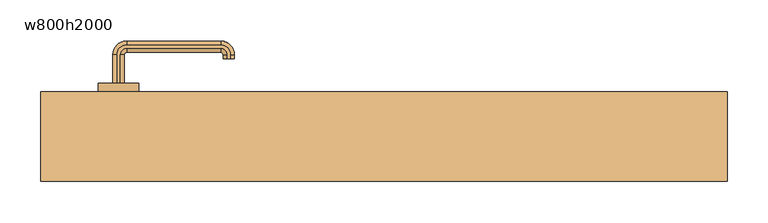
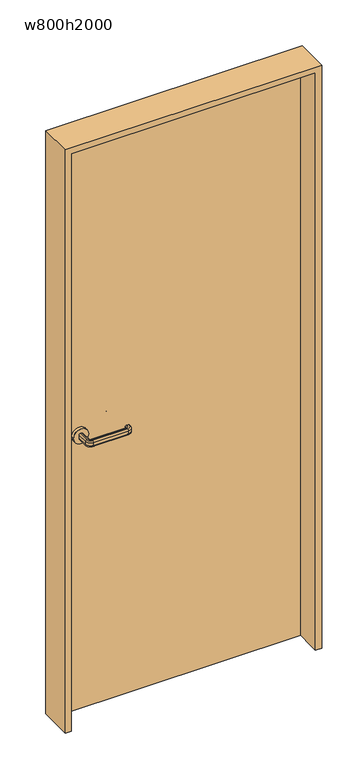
"""IFC4 building model written with IfcOpenShell, lengths in millimetres: door geometry, 片開き : w800h2000."""

from ifc_helpers import new_model, si_unit, point, frame, frame_2d, origin, origin_with_axes, place, context, project, spatial, polyline, circle_curve, ellipse_curve, trimmed, segment, composite_curve, outline, extrude, source, transform, mapped, element, save
from ifc_brep_helpers import plane_surface, cylinder_surface, revolved_surface, advanced_brep


def w800h2000_587cbed2(model_context):
    return source(origin(), model_context, "Body", "SolidModel", [
        advanced_brep(
        [(-327.0, 65.0, 960.0), (-332.0, 65.0, 955.0), (-332.0, 65.0, 945.0477623), (-327.0, 65.0, 940.0477623), (-323.0, 65.0, 940.0477623), (-318.0, 65.0, 945.0477623), (-318.0, 65.0, 955.0), (-323.0, 65.0, 960.0), (-327.0, 100.0, 960.0), (-332.0, 100.0, 955.0), (-332.0, 100.0, 945.0477623), (-327.0, 100.0, 940.0477623), (-315.0, 112.0, 940.0477623), (-200.0, 112.0, 940.0477623), (-188.0, 100.0, 940.0477623), (-188.0, 95.0, 940.0477623), (-192.0, 95.0, 940.0477623), (-192.0, 100.0, 940.0477623), (-200.0, 108.0, 940.0477623), (-315.0, 108.0, 940.0477623), (-323.0, 100.0, 940.0477623), (-318.0, 100.0, 945.0477623), (-318.0, 100.0, 955.0), (-323.0, 100.0, 960.0), (-315.0, 108.0, 960.0), (-200.0, 108.0, 960.0), (-192.0, 100.0, 960.0), (-192.0, 95.0, 960.0), (-188.0, 95.0, 960.0), (-188.0, 100.0, 960.0), (-200.0, 112.0, 960.0), (-315.0, 112.0, 960.0), (-315.0, 117.0, 955.0), (-315.0, 117.0, 945.0477623), (-315.0, 103.0, 945.0477623), (-315.0, 103.0, 955.0), (-200.0, 117.0, 955.0), (-200.0, 117.0, 945.0477623), (-200.0, 103.0, 945.0477623), (-200.0, 103.0, 955.0), (-183.0, 100.0, 955.0), (-183.0, 100.0, 945.0477623), (-197.0, 100.0, 945.0477623), (-197.0, 100.0, 955.0), (-197.0, 95.0, 955.0), (-197.0, 95.0, 945.0477623), (-183.0, 95.0, 945.0477623), (-183.0, 95.0, 955.0)],
        [
            (0, 1, circle_curve(frame((-327.0, 65.0, 955.0), z_axis=(0.0, -1.0, 0.0), x_axis=(-1.0, 0.0, 0.0)), 5.0)),
            (1, 2),
            (2, 3, circle_curve(frame((-327.0, 65.0, 945.0477623), z_axis=(0.0, -1.0, 0.0), x_axis=(-1.0, 0.0, 0.0)), 5.0)),
            (3, 4),
            (4, 5, circle_curve(frame((-323.0, 65.0, 945.0477623), z_axis=(0.0, -1.0, 0.0), x_axis=(-1.0, 0.0, 0.0)), 5.0)),
            (5, 6),
            (6, 7, circle_curve(frame((-323.0, 65.0, 955.0), z_axis=(0.0, -1.0, 0.0), x_axis=(-1.0, 0.0, 0.0)), 5.0)),
            (7, 0),
            (0, 8),
            (8, 9, circle_curve(frame((-327.0, 100.0, 955.0), z_axis=(0.0, -1.0, 0.0), x_axis=(-1.0, 0.0, 0.0)), 5.0)),
            (9, 1),
            (9, 10),
            (10, 2),
            (10, 11, circle_curve(frame((-327.0, 100.0, 945.0477623), z_axis=(0.0, -1.0, 0.0), x_axis=(-1.0, 0.0, 0.0)), 5.0)),
            (11, 3),
            (11, 12, circle_curve(frame((-315.0, 100.0, 940.0477623), z_axis=(0.0, 0.0, -1.0), x_axis=(-1.0, 0.0, 0.0)), 12.0)),
            (12, 13),
            (13, 14, circle_curve(frame((-200.0, 100.0, 940.0477623), z_axis=(0.0, 0.0, -1.0), x_axis=(0.0, 1.0, 0.0)), 12.0)),
            (14, 15),
            (15, 16),
            (16, 17),
            (17, 18, circle_curve(frame((-200.0, 100.0, 940.0477623), z_axis=(0.0, 0.0, 1.0), x_axis=(0.0, 1.0, 0.0)), 8.0)),
            (18, 19),
            (19, 20, circle_curve(frame((-315.0, 100.0, 940.0477623), z_axis=(0.0, 0.0, 1.0), x_axis=(-1.0, 0.0, 0.0)), 8.0)),
            (20, 4),
            (20, 21, circle_curve(frame((-323.0, 100.0, 945.0477623), z_axis=(0.0, -1.0, 0.0), x_axis=(-1.0, 0.0, 0.0)), 5.0)),
            (21, 5),
            (21, 22),
            (22, 6),
            (22, 23, circle_curve(frame((-323.0, 100.0, 955.0), z_axis=(0.0, -1.0, 0.0), x_axis=(-1.0, 0.0, 0.0)), 5.0)),
            (23, 7),
            (23, 24, circle_curve(frame((-315.0, 100.0, 960.0), z_axis=(0.0, 0.0, -1.0), x_axis=(-1.0, 0.0, 0.0)), 8.0)),
            (24, 25),
            (25, 26, circle_curve(frame((-200.0, 100.0, 960.0), z_axis=(0.0, 0.0, -1.0), x_axis=(0.0, 1.0, 0.0)), 8.0)),
            (26, 27),
            (27, 28),
            (28, 29),
            (29, 30, circle_curve(frame((-200.0, 100.0, 960.0), z_axis=(0.0, 0.0, 1.0), x_axis=(0.0, 1.0, 0.0)), 12.0)),
            (30, 31),
            (31, 8, circle_curve(frame((-315.0, 100.0, 960.0), z_axis=(0.0, 0.0, 1.0), x_axis=(-1.0, 0.0, 0.0)), 12.0)),
            (32, 9, circle_curve(frame((-315.0, 100.0, 955.0), z_axis=(0.0, 0.0, 1.0), x_axis=(-1.0, 0.0, 0.0)), 17.0)),
            (31, 32, circle_curve(frame((-315.0, 112.0, 955.0), z_axis=(-1.0, 0.0, 0.0), x_axis=(0.0, 1.0, 0.0)), 5.0)),
            (33, 10, circle_curve(frame((-315.0, 100.0, 945.0477623), z_axis=(0.0, 0.0, 1.0), x_axis=(-1.0, 0.0, 0.0)), 17.0)),
            (32, 33),
            (33, 12, circle_curve(frame((-315.0, 112.0, 945.0477623), z_axis=(-1.0, 0.0, 0.0), x_axis=(0.0, 1.0, 0.0)), 5.0)),
            (34, 21, circle_curve(frame((-315.0, 100.0, 945.0477623), z_axis=(0.0, 0.0, 1.0), x_axis=(-1.0, 0.0, 0.0)), 3.0)),
            (19, 34, circle_curve(frame((-315.0, 108.0, 945.0477623), z_axis=(-1.0, 0.0, 0.0), x_axis=(0.0, 1.0, 0.0)), 5.0)),
            (35, 22, circle_curve(frame((-315.0, 100.0, 955.0), z_axis=(0.0, 0.0, 1.0), x_axis=(-1.0, 0.0, 0.0)), 3.0)),
            (34, 35),
            (35, 24, circle_curve(frame((-315.0, 108.0, 955.0), z_axis=(-1.0, 0.0, 0.0), x_axis=(0.0, 1.0, 0.0)), 5.0)),
            (30, 36, circle_curve(frame((-200.0, 112.0, 955.0), z_axis=(-1.0, 0.0, 0.0), x_axis=(0.0, 1.0, 0.0)), 5.0)),
            (36, 32),
            (36, 37),
            (37, 33),
            (37, 13, circle_curve(frame((-200.0, 112.0, 945.0477623), z_axis=(-1.0, 0.0, 0.0), x_axis=(0.0, 1.0, 0.0)), 5.0)),
            (18, 38, circle_curve(frame((-200.0, 108.0, 945.0477623), z_axis=(-1.0, 0.0, 0.0), x_axis=(0.0, 1.0, 0.0)), 5.0)),
            (38, 34),
            (38, 39),
            (39, 35),
            (39, 25, circle_curve(frame((-200.0, 108.0, 955.0), z_axis=(-1.0, 0.0, 0.0), x_axis=(0.0, 1.0, 0.0)), 5.0)),
            (40, 36, circle_curve(frame((-200.0, 100.0, 955.0), z_axis=(0.0, 0.0, 1.0), x_axis=(0.0, 1.0, 0.0)), 17.0)),
            (29, 40, circle_curve(frame((-188.0, 100.0, 955.0), z_axis=(0.0, 1.0, 0.0), x_axis=(1.0, 0.0, 0.0)), 5.0)),
            (41, 37, circle_curve(frame((-200.0, 100.0, 945.0477623), z_axis=(0.0, 0.0, 1.0), x_axis=(0.0, 1.0, 0.0)), 17.0)),
            (40, 41),
            (41, 14, circle_curve(frame((-188.0, 100.0, 945.0477623), z_axis=(0.0, 1.0, 0.0), x_axis=(1.0, 0.0, 0.0)), 5.0)),
            (42, 38, circle_curve(frame((-200.0, 100.0, 945.0477623), z_axis=(0.0, 0.0, 1.0), x_axis=(0.0, 1.0, 0.0)), 3.0)),
            (17, 42, circle_curve(frame((-192.0, 100.0, 945.0477623), z_axis=(0.0, 1.0, 0.0), x_axis=(1.0, 0.0, 0.0)), 5.0)),
            (43, 39, circle_curve(frame((-200.0, 100.0, 955.0), z_axis=(0.0, 0.0, 1.0), x_axis=(0.0, 1.0, 0.0)), 3.0)),
            (42, 43),
            (43, 26, circle_curve(frame((-192.0, 100.0, 955.0), z_axis=(0.0, 1.0, 0.0), x_axis=(1.0, 0.0, 0.0)), 5.0)),
            (27, 44, circle_curve(frame((-192.0, 95.0, 955.0), z_axis=(0.0, -1.0, 0.0), x_axis=(1.0, 0.0, 0.0)), 5.0)),
            (44, 45),
            (45, 16, circle_curve(frame((-192.0, 95.0, 945.0477623), z_axis=(0.0, -1.0, 0.0), x_axis=(1.0, 0.0, 0.0)), 5.0)),
            (15, 46, circle_curve(frame((-188.0, 95.0, 945.0477623), z_axis=(0.0, -1.0, 0.0), x_axis=(1.0, 0.0, 0.0)), 5.0)),
            (46, 47),
            (47, 28, circle_curve(frame((-188.0, 95.0, 955.0), z_axis=(0.0, -1.0, 0.0), x_axis=(1.0, 0.0, 0.0)), 5.0)),
            (47, 40),
            (46, 41),
            (45, 42),
            (44, 43),
        ],
        [
            plane_surface(frame((-335.198039, 65.0, 950.0), z_axis=(0.0, -1.0, 0.0), x_axis=(0.0, 0.0, 1.0))),
            cylinder_surface(frame((-327.0, 65.0, 955.0), z_axis=(0.0, -1.0, 0.0), x_axis=(-1.0, 0.0, 0.0)), 5.0),
            plane_surface(frame((-332.0, 65.0, 955.0), z_axis=(-1.0, 0.0, 0.0), x_axis=(0.0, 1.0, 0.0))),
            cylinder_surface(frame((-327.0, 65.0, 945.0477623), z_axis=(0.0, -1.0, 0.0), x_axis=(-1.0, 0.0, 0.0)), 5.0),
            plane_surface(frame((-327.0, 65.0, 940.0477623), z_axis=(0.0, 0.0, -1.0), x_axis=(0.0, 1.0, 0.0))),
            cylinder_surface(frame((-323.0, 65.0, 945.0477623), z_axis=(0.0, -1.0, 0.0), x_axis=(-1.0, 0.0, 0.0)), 5.0),
            plane_surface(frame((-318.0, 65.0, 945.0477623), z_axis=(1.0, 0.0, 0.0), x_axis=(0.0, 1.0, 0.0))),
            cylinder_surface(frame((-323.0, 65.0, 955.0), z_axis=(0.0, -1.0, 0.0), x_axis=(-1.0, 0.0, 0.0)), 5.0),
            plane_surface(frame((-323.0, 65.0, 960.0), z_axis=(0.0, 0.0, 1.0), x_axis=(0.0, 1.0, 0.0))),
            revolved_surface(trimmed(ellipse_curve(frame((-327.0, 100.0, 955.0), z_axis=(0.0, -1.0, 0.0), x_axis=(-1.0, 0.0, 0.0)), 5.0, 5.0), [point((-327.0, 100.0, 960.0))], [point((-332.0, 100.0, 955.0))], True, "CARTESIAN"), (-315.0, 100.0, 950.0), (0.0, 0.0, -1.0)),
            cylinder_surface(frame((-315.0, 100.0, 950.0), z_axis=(0.0, 0.0, -1.0), x_axis=(-1.0, 0.0, 0.0)), 17.0),
            revolved_surface(trimmed(ellipse_curve(frame((-327.0, 100.0, 945.0477623), z_axis=(0.0, -1.0, 0.0), x_axis=(-1.0, 0.0, 0.0)), 5.0, 5.0), [point((-332.0, 100.0, 945.0477623))], [point((-327.0, 100.0, 940.0477623))], True, "CARTESIAN"), (-315.0, 100.0, 950.0), (0.0, 0.0, -1.0)),
            revolved_surface(trimmed(ellipse_curve(frame((-323.0, 100.0, 945.0477623), z_axis=(0.0, -1.0, 0.0), x_axis=(-1.0, 0.0, 0.0)), 5.0, 5.0), [point((-323.0, 100.0, 940.0477623))], [point((-318.0, 100.0, 945.0477623))], True, "CARTESIAN"), (-315.0, 100.0, 950.0), (0.0, 0.0, -1.0)),
            revolved_surface(polyline([(-318.0, 100.0, 945.0477623), (-318.0, 100.0, 955.0)]), (-315.0, 100.0, 950.0), (0.0, 0.0, -1.0)),
            revolved_surface(trimmed(ellipse_curve(frame((-323.0, 100.0, 955.0), z_axis=(0.0, -1.0, 0.0), x_axis=(-1.0, 0.0, 0.0)), 5.0, 5.0), [point((-318.0, 100.0, 955.0))], [point((-323.0, 100.0, 960.0))], True, "CARTESIAN"), (-315.0, 100.0, 950.0), (0.0, 0.0, -1.0)),
            cylinder_surface(frame((-315.0, 112.0, 955.0), z_axis=(-1.0, 0.0, 0.0), x_axis=(0.0, 1.0, 0.0)), 5.0),
            plane_surface(frame((-315.0, 117.0, 955.0), z_axis=(0.0, 1.0, 0.0), x_axis=(1.0, 0.0, 0.0))),
            cylinder_surface(frame((-315.0, 112.0, 945.0477623), z_axis=(-1.0, 0.0, 0.0), x_axis=(0.0, 1.0, 0.0)), 5.0),
            cylinder_surface(frame((-315.0, 108.0, 945.0477623), z_axis=(-1.0, 0.0, 0.0), x_axis=(0.0, 1.0, 0.0)), 5.0),
            plane_surface(frame((-315.0, 103.0, 945.0477623), z_axis=(0.0, -1.0, 0.0), x_axis=(1.0, 0.0, 0.0))),
            cylinder_surface(frame((-315.0, 108.0, 955.0), z_axis=(-1.0, 0.0, 0.0), x_axis=(0.0, 1.0, 0.0)), 5.0),
            revolved_surface(trimmed(ellipse_curve(frame((-200.0, 112.0, 955.0), z_axis=(-1.0, 0.0, 0.0), x_axis=(0.0, 1.0, 0.0)), 5.0, 5.0), [point((-200.0, 112.0, 960.0))], [point((-200.0, 117.0, 955.0))], True, "CARTESIAN"), (-200.0, 100.0, 950.0), (0.0, 0.0, -1.0)),
            cylinder_surface(frame((-200.0, 100.0, 950.0), z_axis=(0.0, 0.0, -1.0), x_axis=(0.0, 1.0, 0.0)), 17.0),
            revolved_surface(trimmed(ellipse_curve(frame((-200.0, 112.0, 945.0477623), z_axis=(-1.0, 0.0, 0.0), x_axis=(0.0, 1.0, 0.0)), 5.0, 5.0), [point((-200.0, 117.0, 945.0477623))], [point((-200.0, 112.0, 940.0477623))], True, "CARTESIAN"), (-200.0, 100.0, 950.0), (0.0, 0.0, -1.0)),
            revolved_surface(trimmed(ellipse_curve(frame((-200.0, 108.0, 945.0477623), z_axis=(-1.0, 0.0, 0.0), x_axis=(0.0, 1.0, 0.0)), 5.0, 5.0), [point((-200.0, 108.0, 940.0477623))], [point((-200.0, 103.0, 945.0477623))], True, "CARTESIAN"), (-200.0, 100.0, 950.0), (0.0, 0.0, -1.0)),
            revolved_surface(polyline([(-200.0, 103.0, 945.0477623), (-200.0, 103.0, 955.0)]), (-200.0, 100.0, 950.0), (0.0, 0.0, -1.0)),
            revolved_surface(trimmed(ellipse_curve(frame((-200.0, 108.0, 955.0), z_axis=(-1.0, 0.0, 0.0), x_axis=(0.0, 1.0, 0.0)), 5.0, 5.0), [point((-200.0, 103.0, 955.0))], [point((-200.0, 108.0, 960.0))], True, "CARTESIAN"), (-200.0, 100.0, 950.0), (0.0, 0.0, -1.0)),
            plane_surface(frame((-200.198039, 95.0, 950.0), z_axis=(0.0, -1.0, 0.0), x_axis=(0.0, 0.0, -1.0))),
            cylinder_surface(frame((-188.0, 100.0, 955.0), z_axis=(0.0, 1.0, 0.0), x_axis=(1.0, 0.0, 0.0)), 5.0),
            plane_surface(frame((-183.0, 100.0, 955.0), z_axis=(1.0, 0.0, 0.0), x_axis=(0.0, -1.0, 0.0))),
            cylinder_surface(frame((-188.0, 100.0, 945.0477623), z_axis=(0.0, 1.0, 0.0), x_axis=(1.0, 0.0, 0.0)), 5.0),
            cylinder_surface(frame((-192.0, 100.0, 945.0477623), z_axis=(0.0, 1.0, 0.0), x_axis=(1.0, 0.0, 0.0)), 5.0),
            plane_surface(frame((-197.0, 100.0, 945.0477623), z_axis=(-1.0, 0.0, 0.0), x_axis=(0.0, -1.0, 0.0))),
            cylinder_surface(frame((-192.0, 100.0, 955.0), z_axis=(0.0, 1.0, 0.0), x_axis=(1.0, 0.0, 0.0)), 5.0),
        ],
        [
            (0, [[1, 2, 3, 4, 5, 6, 7, 8]]),
            (1, [[-1, 9, 10, 11]]),
            (2, [[-2, -11, 12, 13]]),
            (3, [[-3, -13, 14, 15]]),
            (4, [[-4, -15, 16, 17, 18, 19, 20, 21, 22, 23, 24, 25]]),
            (5, [[-5, -25, 26, 27]]),
            (6, [[-6, -27, 28, 29]]),
            (7, [[-7, -29, 30, 31]]),
            (8, [[-8, -31, 32, 33, 34, 35, 36, 37, 38, 39, 40, -9]]),
            (9, [[41, -10, -40, 42]]),
            (10, [[43, -12, -41, 44]]),
            (11, [[-16, -14, -43, 45]]),
            (12, [[46, -26, -24, 47]]),
            (13, [[48, -28, -46, 49]]),
            (14, [[-32, -30, -48, 50]]),
            (15, [[-42, -39, 51, 52]]),
            (16, [[-44, -52, 53, 54]]),
            (17, [[-45, -54, 55, -17]]),
            (18, [[-47, -23, 56, 57]]),
            (19, [[-49, -57, 58, 59]]),
            (20, [[-50, -59, 60, -33]]),
            (21, [[61, -51, -38, 62]]),
            (22, [[63, -53, -61, 64]]),
            (23, [[-18, -55, -63, 65]]),
            (24, [[66, -56, -22, 67]]),
            (25, [[68, -58, -66, 69]]),
            (26, [[-34, -60, -68, 70]]),
            (27, [[-36, 71, 72, 73, -20, 74, 75, 76]]),
            (28, [[-62, -37, -76, 77]]),
            (29, [[-64, -77, -75, 78]]),
            (30, [[-65, -78, -74, -19]]),
            (31, [[-67, -21, -73, 79]]),
            (32, [[-69, -79, -72, 80]]),
            (33, [[-70, -80, -71, -35]]),
        ],
    ),
        advanced_brep(
        [(-323.0, 20.0, 940.0), (-327.0, 20.0, 940.0), (-332.0, 20.0, 945.0), (-332.0, 20.0, 955.0), (-327.0, 20.0, 960.0), (-323.0, 20.0, 960.0), (-318.0, 20.0, 955.0), (-318.0, 20.0, 945.0), (-323.0, -15.0, 940.0), (-315.0, -23.0, 940.0), (-200.0, -23.0, 940.0), (-192.0, -15.0, 940.0), (-192.0, -10.0, 940.0), (-188.0, -10.0, 940.0), (-188.0, -15.0, 940.0), (-200.0, -27.0, 940.0), (-315.0, -27.0, 940.0), (-327.0, -15.0, 940.0), (-332.0, -15.0, 945.0), (-332.0, -15.0, 955.0), (-327.0, -15.0, 960.0), (-315.0, -27.0, 960.0), (-200.0, -27.0, 960.0), (-188.0, -15.0, 960.0), (-188.0, -10.0, 960.0), (-192.0, -10.0, 960.0), (-192.0, -15.0, 960.0), (-200.0, -23.0, 960.0), (-315.0, -23.0, 960.0), (-323.0, -15.0, 960.0), (-318.0, -15.0, 955.0), (-318.0, -15.0, 945.0), (-315.0, -32.0, 945.0), (-315.0, -32.0, 955.0), (-315.0, -18.0, 955.0), (-315.0, -18.0, 945.0), (-200.0, -32.0, 945.0), (-200.0, -32.0, 955.0), (-200.0, -18.0, 955.0), (-200.0, -18.0, 945.0), (-183.0, -15.0, 945.0), (-183.0, -15.0, 955.0), (-197.0, -15.0, 955.0), (-197.0, -15.0, 945.0), (-197.0, -10.0, 945.0), (-197.0, -10.0, 955.0), (-183.0, -10.0, 955.0), (-183.0, -10.0, 945.0)],
        [
            (0, 1),
            (1, 2, circle_curve(frame((-327.0, 20.0, 945.0), z_axis=(0.0, 1.0, 0.0), x_axis=(1.0, 0.0, 0.0)), 5.0)),
            (2, 3),
            (3, 4, circle_curve(frame((-327.0, 20.0, 955.0), z_axis=(0.0, 1.0, 0.0), x_axis=(1.0, 0.0, 0.0)), 5.0)),
            (4, 5),
            (5, 6, circle_curve(frame((-323.0, 20.0, 955.0), z_axis=(0.0, 1.0, 0.0), x_axis=(1.0, 0.0, 0.0)), 5.0)),
            (6, 7),
            (7, 0, circle_curve(frame((-323.0, 20.0, 945.0), z_axis=(0.0, 1.0, 0.0), x_axis=(1.0, 0.0, 0.0)), 5.0)),
            (0, 8),
            (8, 9, circle_curve(frame((-315.0, -15.0, 940.0), z_axis=(0.0, 0.0, 1.0), x_axis=(-1.0, 0.0, 0.0)), 8.0)),
            (9, 10),
            (10, 11, circle_curve(frame((-200.0, -15.0, 940.0), z_axis=(0.0, 0.0, 1.0), x_axis=(0.0, -1.0, 0.0)), 8.0)),
            (11, 12),
            (12, 13),
            (13, 14),
            (14, 15, circle_curve(frame((-200.0, -15.0, 940.0), z_axis=(0.0, 0.0, -1.0), x_axis=(0.0, -1.0, 0.0)), 12.0)),
            (15, 16),
            (16, 17, circle_curve(frame((-315.0, -15.0, 940.0), z_axis=(0.0, 0.0, -1.0), x_axis=(-1.0, 0.0, 0.0)), 12.0)),
            (17, 1),
            (17, 18, circle_curve(frame((-327.0, -15.0, 945.0), z_axis=(0.0, 1.0, 0.0), x_axis=(1.0, 0.0, 0.0)), 5.0)),
            (18, 2),
            (18, 19),
            (19, 3),
            (19, 20, circle_curve(frame((-327.0, -15.0, 955.0), z_axis=(0.0, 1.0, 0.0), x_axis=(1.0, 0.0, 0.0)), 5.0)),
            (20, 4),
            (20, 21, circle_curve(frame((-315.0, -15.0, 960.0), z_axis=(0.0, 0.0, 1.0), x_axis=(-1.0, 0.0, 0.0)), 12.0)),
            (21, 22),
            (22, 23, circle_curve(frame((-200.0, -15.0, 960.0), z_axis=(0.0, 0.0, 1.0), x_axis=(0.0, -1.0, 0.0)), 12.0)),
            (23, 24),
            (24, 25),
            (25, 26),
            (26, 27, circle_curve(frame((-200.0, -15.0, 960.0), z_axis=(0.0, 0.0, -1.0), x_axis=(0.0, -1.0, 0.0)), 8.0)),
            (27, 28),
            (28, 29, circle_curve(frame((-315.0, -15.0, 960.0), z_axis=(0.0, 0.0, -1.0), x_axis=(-1.0, 0.0, 0.0)), 8.0)),
            (29, 5),
            (29, 30, circle_curve(frame((-323.0, -15.0, 955.0), z_axis=(0.0, 1.0, 0.0), x_axis=(1.0, 0.0, 0.0)), 5.0)),
            (30, 6),
            (30, 31),
            (31, 7),
            (31, 8, circle_curve(frame((-323.0, -15.0, 945.0), z_axis=(0.0, 1.0, 0.0), x_axis=(1.0, 0.0, 0.0)), 5.0)),
            (32, 18, circle_curve(frame((-315.0, -15.0, 945.0), z_axis=(0.0, 0.0, -1.0), x_axis=(-1.0, 0.0, 0.0)), 17.0)),
            (16, 32, circle_curve(frame((-315.0, -27.0, 945.0), z_axis=(-1.0, 0.0, 0.0), x_axis=(0.0, 1.0, 0.0)), 5.0)),
            (33, 19, circle_curve(frame((-315.0, -15.0, 955.0), z_axis=(0.0, 0.0, -1.0), x_axis=(-1.0, 0.0, 0.0)), 17.0)),
            (32, 33),
            (33, 21, circle_curve(frame((-315.0, -27.0, 955.0), z_axis=(-1.0, 0.0, 0.0), x_axis=(0.0, 1.0, 0.0)), 5.0)),
            (34, 30, circle_curve(frame((-315.0, -15.0, 955.0), z_axis=(0.0, 0.0, -1.0), x_axis=(-1.0, 0.0, 0.0)), 3.0)),
            (28, 34, circle_curve(frame((-315.0, -23.0, 955.0), z_axis=(-1.0, 0.0, 0.0), x_axis=(0.0, 1.0, 0.0)), 5.0)),
            (35, 31, circle_curve(frame((-315.0, -15.0, 945.0), z_axis=(0.0, 0.0, -1.0), x_axis=(-1.0, 0.0, 0.0)), 3.0)),
            (34, 35),
            (35, 9, circle_curve(frame((-315.0, -23.0, 945.0), z_axis=(-1.0, 0.0, 0.0), x_axis=(0.0, 1.0, 0.0)), 5.0)),
            (15, 36, circle_curve(frame((-200.0, -27.0, 945.0), z_axis=(-1.0, 0.0, 0.0), x_axis=(0.0, 1.0, 0.0)), 5.0)),
            (36, 32),
            (36, 37),
            (37, 33),
            (37, 22, circle_curve(frame((-200.0, -27.0, 955.0), z_axis=(-1.0, 0.0, 0.0), x_axis=(0.0, 1.0, 0.0)), 5.0)),
            (27, 38, circle_curve(frame((-200.0, -23.0, 955.0), z_axis=(-1.0, 0.0, 0.0), x_axis=(0.0, 1.0, 0.0)), 5.0)),
            (38, 34),
            (38, 39),
            (39, 35),
            (39, 10, circle_curve(frame((-200.0, -23.0, 945.0), z_axis=(-1.0, 0.0, 0.0), x_axis=(0.0, 1.0, 0.0)), 5.0)),
            (40, 36, circle_curve(frame((-200.0, -15.0, 945.0), z_axis=(0.0, 0.0, -1.0), x_axis=(0.0, -1.0, 0.0)), 17.0)),
            (14, 40, circle_curve(frame((-188.0, -15.0, 945.0), z_axis=(0.0, -1.0, 0.0), x_axis=(-1.0, 0.0, 0.0)), 5.0)),
            (41, 37, circle_curve(frame((-200.0, -15.0, 955.0), z_axis=(0.0, 0.0, -1.0), x_axis=(0.0, -1.0, 0.0)), 17.0)),
            (40, 41),
            (41, 23, circle_curve(frame((-188.0, -15.0, 955.0), z_axis=(0.0, -1.0, 0.0), x_axis=(-1.0, 0.0, 0.0)), 5.0)),
            (42, 38, circle_curve(frame((-200.0, -15.0, 955.0), z_axis=(0.0, 0.0, -1.0), x_axis=(0.0, -1.0, 0.0)), 3.0)),
            (26, 42, circle_curve(frame((-192.0, -15.0, 955.0), z_axis=(0.0, -1.0, 0.0), x_axis=(-1.0, 0.0, 0.0)), 5.0)),
            (43, 39, circle_curve(frame((-200.0, -15.0, 945.0), z_axis=(0.0, 0.0, -1.0), x_axis=(0.0, -1.0, 0.0)), 3.0)),
            (42, 43),
            (43, 11, circle_curve(frame((-192.0, -15.0, 945.0), z_axis=(0.0, -1.0, 0.0), x_axis=(-1.0, 0.0, 0.0)), 5.0)),
            (12, 44, circle_curve(frame((-192.0, -10.0, 945.0), z_axis=(0.0, 1.0, 0.0), x_axis=(-1.0, 0.0, 0.0)), 5.0)),
            (44, 45),
            (45, 25, circle_curve(frame((-192.0, -10.0, 955.0), z_axis=(0.0, 1.0, 0.0), x_axis=(-1.0, 0.0, 0.0)), 5.0)),
            (24, 46, circle_curve(frame((-188.0, -10.0, 955.0), z_axis=(0.0, 1.0, 0.0), x_axis=(-1.0, 0.0, 0.0)), 5.0)),
            (46, 47),
            (47, 13, circle_curve(frame((-188.0, -10.0, 945.0), z_axis=(0.0, 1.0, 0.0), x_axis=(-1.0, 0.0, 0.0)), 5.0)),
            (47, 40),
            (46, 41),
            (45, 42),
            (44, 43),
        ],
        [
            plane_surface(frame((-335.198039, 20.0, 950.0), z_axis=(0.0, 1.0, 0.0), x_axis=(0.0, 0.0, -1.0))),
            plane_surface(frame((-323.0, 20.0, 940.0), z_axis=(0.0, 0.0, -1.0), x_axis=(0.0, -1.0, 0.0))),
            cylinder_surface(frame((-327.0, 20.0, 945.0), z_axis=(0.0, 1.0, 0.0), x_axis=(1.0, 0.0, 0.0)), 5.0),
            plane_surface(frame((-332.0, 20.0, 945.0), z_axis=(-1.0, 0.0, 0.0), x_axis=(0.0, -1.0, 0.0))),
            cylinder_surface(frame((-327.0, 20.0, 955.0), z_axis=(0.0, 1.0, 0.0), x_axis=(1.0, 0.0, 0.0)), 5.0),
            plane_surface(frame((-327.0, 20.0, 960.0), z_axis=(0.0, 0.0, 1.0), x_axis=(0.0, -1.0, 0.0))),
            cylinder_surface(frame((-323.0, 20.0, 955.0), z_axis=(0.0, 1.0, 0.0), x_axis=(1.0, 0.0, 0.0)), 5.0),
            plane_surface(frame((-318.0, 20.0, 955.0), z_axis=(1.0, 0.0, 0.0), x_axis=(0.0, -1.0, 0.0))),
            cylinder_surface(frame((-323.0, 20.0, 945.0), z_axis=(0.0, 1.0, 0.0), x_axis=(1.0, 0.0, 0.0)), 5.0),
            revolved_surface(trimmed(ellipse_curve(frame((-327.0, -15.0, 945.0), z_axis=(0.0, 1.0, 0.0), x_axis=(1.0, 0.0, 0.0)), 5.0, 5.0), [point((-327.0, -15.0, 940.0))], [point((-332.0, -15.0, 945.0))], True, "CARTESIAN"), (-315.0, -15.0, 950.0), (0.0, 0.0, 1.0)),
            cylinder_surface(frame((-315.0, -15.0, 950.0), z_axis=(0.0, 0.0, 1.0), x_axis=(-1.0, 0.0, 0.0)), 17.0),
            revolved_surface(trimmed(ellipse_curve(frame((-327.0, -15.0, 955.0), z_axis=(0.0, 1.0, 0.0), x_axis=(1.0, 0.0, 0.0)), 5.0, 5.0), [point((-332.0, -15.0, 955.0))], [point((-327.0, -15.0, 960.0))], True, "CARTESIAN"), (-315.0, -15.0, 950.0), (0.0, 0.0, 1.0)),
            revolved_surface(trimmed(ellipse_curve(frame((-323.0, -15.0, 955.0), z_axis=(0.0, 1.0, 0.0), x_axis=(1.0, 0.0, 0.0)), 5.0, 5.0), [point((-323.0, -15.0, 960.0))], [point((-318.0, -15.0, 955.0))], True, "CARTESIAN"), (-315.0, -15.0, 950.0), (0.0, 0.0, 1.0)),
            revolved_surface(polyline([(-318.0, -15.0, 955.0), (-318.0, -15.0, 945.0)]), (-315.0, -15.0, 950.0), (0.0, 0.0, 1.0)),
            revolved_surface(trimmed(ellipse_curve(frame((-323.0, -15.0, 945.0), z_axis=(0.0, 1.0, 0.0), x_axis=(1.0, 0.0, 0.0)), 5.0, 5.0), [point((-318.0, -15.0, 945.0))], [point((-323.0, -15.0, 940.0))], True, "CARTESIAN"), (-315.0, -15.0, 950.0), (0.0, 0.0, 1.0)),
            cylinder_surface(frame((-315.0, -27.0, 945.0), z_axis=(-1.0, 0.0, 0.0), x_axis=(0.0, 1.0, 0.0)), 5.0),
            plane_surface(frame((-315.0, -32.0, 945.0), z_axis=(0.0, -1.0, 0.0), x_axis=(1.0, 0.0, 0.0))),
            cylinder_surface(frame((-315.0, -27.0, 955.0), z_axis=(-1.0, 0.0, 0.0), x_axis=(0.0, 1.0, 0.0)), 5.0),
            cylinder_surface(frame((-315.0, -23.0, 955.0), z_axis=(-1.0, 0.0, 0.0), x_axis=(0.0, 1.0, 0.0)), 5.0),
            plane_surface(frame((-315.0, -18.0, 955.0), z_axis=(0.0, 1.0, 0.0), x_axis=(1.0, 0.0, 0.0))),
            cylinder_surface(frame((-315.0, -23.0, 945.0), z_axis=(-1.0, 0.0, 0.0), x_axis=(0.0, 1.0, 0.0)), 5.0),
            revolved_surface(trimmed(ellipse_curve(frame((-200.0, -27.0, 945.0), z_axis=(-1.0, 0.0, 0.0), x_axis=(0.0, 1.0, 0.0)), 5.0, 5.0), [point((-200.0, -27.0, 940.0))], [point((-200.0, -32.0, 945.0))], True, "CARTESIAN"), (-200.0, -15.0, 950.0), (0.0, 0.0, 1.0)),
            cylinder_surface(frame((-200.0, -15.0, 950.0), z_axis=(0.0, 0.0, 1.0), x_axis=(0.0, -1.0, 0.0)), 17.0),
            revolved_surface(trimmed(ellipse_curve(frame((-200.0, -27.0, 955.0), z_axis=(-1.0, 0.0, 0.0), x_axis=(0.0, 1.0, 0.0)), 5.0, 5.0), [point((-200.0, -32.0, 955.0))], [point((-200.0, -27.0, 960.0))], True, "CARTESIAN"), (-200.0, -15.0, 950.0), (0.0, 0.0, 1.0)),
            revolved_surface(trimmed(ellipse_curve(frame((-200.0, -23.0, 955.0), z_axis=(-1.0, 0.0, 0.0), x_axis=(0.0, 1.0, 0.0)), 5.0, 5.0), [point((-200.0, -23.0, 960.0))], [point((-200.0, -18.0, 955.0))], True, "CARTESIAN"), (-200.0, -15.0, 950.0), (0.0, 0.0, 1.0)),
            revolved_surface(polyline([(-200.0, -18.0, 955.0), (-200.0, -18.0, 945.0)]), (-200.0, -15.0, 950.0), (0.0, 0.0, 1.0)),
            revolved_surface(trimmed(ellipse_curve(frame((-200.0, -23.0, 945.0), z_axis=(-1.0, 0.0, 0.0), x_axis=(0.0, 1.0, 0.0)), 5.0, 5.0), [point((-200.0, -18.0, 945.0))], [point((-200.0, -23.0, 940.0))], True, "CARTESIAN"), (-200.0, -15.0, 950.0), (0.0, 0.0, 1.0)),
            plane_surface(frame((-200.198039, -10.0, 950.0), z_axis=(0.0, 1.0, 0.0), x_axis=(0.0, 0.0, 1.0))),
            cylinder_surface(frame((-188.0, -15.0, 945.0), z_axis=(0.0, -1.0, 0.0), x_axis=(-1.0, 0.0, 0.0)), 5.0),
            plane_surface(frame((-183.0, -15.0, 945.0), z_axis=(1.0, 0.0, 0.0), x_axis=(0.0, 1.0, 0.0))),
            cylinder_surface(frame((-188.0, -15.0, 955.0), z_axis=(0.0, -1.0, 0.0), x_axis=(-1.0, 0.0, 0.0)), 5.0),
            cylinder_surface(frame((-192.0, -15.0, 955.0), z_axis=(0.0, -1.0, 0.0), x_axis=(-1.0, 0.0, 0.0)), 5.0),
            plane_surface(frame((-197.0, -15.0, 955.0), z_axis=(-1.0, 0.0, 0.0), x_axis=(0.0, 1.0, 0.0))),
            cylinder_surface(frame((-192.0, -15.0, 945.0), z_axis=(0.0, -1.0, 0.0), x_axis=(-1.0, 0.0, 0.0)), 5.0),
        ],
        [
            (0, [[1, 2, 3, 4, 5, 6, 7, 8]]),
            (1, [[-1, 9, 10, 11, 12, 13, 14, 15, 16, 17, 18, 19]]),
            (2, [[-2, -19, 20, 21]]),
            (3, [[-3, -21, 22, 23]]),
            (4, [[-4, -23, 24, 25]]),
            (5, [[-5, -25, 26, 27, 28, 29, 30, 31, 32, 33, 34, 35]]),
            (6, [[-6, -35, 36, 37]]),
            (7, [[-7, -37, 38, 39]]),
            (8, [[-8, -39, 40, -9]]),
            (9, [[41, -20, -18, 42]]),
            (10, [[43, -22, -41, 44]]),
            (11, [[-26, -24, -43, 45]]),
            (12, [[46, -36, -34, 47]]),
            (13, [[48, -38, -46, 49]]),
            (14, [[-10, -40, -48, 50]]),
            (15, [[-42, -17, 51, 52]]),
            (16, [[-44, -52, 53, 54]]),
            (17, [[-45, -54, 55, -27]]),
            (18, [[-47, -33, 56, 57]]),
            (19, [[-49, -57, 58, 59]]),
            (20, [[-50, -59, 60, -11]]),
            (21, [[61, -51, -16, 62]]),
            (22, [[63, -53, -61, 64]]),
            (23, [[-28, -55, -63, 65]]),
            (24, [[66, -56, -32, 67]]),
            (25, [[68, -58, -66, 69]]),
            (26, [[-12, -60, -68, 70]]),
            (27, [[71, 72, 73, -30, 74, 75, 76, -14]]),
            (28, [[-62, -15, -76, 77]]),
            (29, [[-64, -77, -75, 78]]),
            (30, [[-65, -78, -74, -29]]),
            (31, [[-67, -31, -73, 79]]),
            (32, [[-69, -79, -72, 80]]),
            (33, [[-70, -80, -71, -13]]),
        ],
    ),
        extrude(outline(composite_curve([segment(trimmed(circle_curve(frame_2d((950.0, -325.0)), 25.0), [point((950.0, -350.0))], [point((950.0, -300.0))], False, "CARTESIAN"), True, "CONTINUOUS"), segment(trimmed(circle_curve(frame_2d((950.0, -325.0)), 25.0), [point((950.0, -300.0))], [point((950.0, -350.0))], False, "CARTESIAN"), True, "CONTINUOUS")], self_intersect=False)), frame((0.0, 55.0, 0.0), z_axis=(0.0, 1.0, 0.0), x_axis=(0.0, 0.0, 1.0)), (0.0, 0.0, 1.0), 10.0),
        extrude(outline(composite_curve([segment(trimmed(circle_curve(frame_2d((950.0, -325.0)), 25.0), [point((950.0, -350.0))], [point((950.0, -300.0))], False, "CARTESIAN"), True, "CONTINUOUS"), segment(trimmed(circle_curve(frame_2d((950.0, -325.0)), 25.0), [point((950.0, -300.0))], [point((950.0, -350.0))], False, "CARTESIAN"), True, "CONTINUOUS")], self_intersect=False)), frame((0.0, 20.0, 0.0), z_axis=(0.0, 1.0, 0.0), x_axis=(0.0, 0.0, 1.0)), (0.0, 0.0, 1.0), 10.0),
        extrude(outline(polyline([(2020.0, -420.0), (0.0, -420.0), (0.0, -400.0), (2000.0, -400.0), (2000.0, 400.0), (0.0, 400.0), (0.0, 420.0), (2020.0, 420.0), (2020.0, -420.0)])), frame((0.0, -55.0, 0.0), z_axis=(0.0, 1.0, 0.0), x_axis=(0.0, 0.0, 1.0)), (0.0, 0.0, 1.0), 110.0),
        extrude(outline(polyline([(400.0, 30.0), (-400.0, 30.0), (-400.0, 55.0), (400.0, 55.0), (400.0, 30.0)])), origin_with_axes(), (0.0, 0.0, 1.0), 2000.0),
    ])


if __name__ == "__main__":
    model = new_model("IFC4")
    model_context = context("Model", 3, world=origin())
    ifc_project = project(units=[si_unit("LENGTHUNIT", "METRE", prefix="MILLI")], contexts=[model_context])
    site = spatial("IfcSite", under=ifc_project)
    building = spatial("IfcBuilding", under=site)
    placement = place(None, origin())
    w800h2000_shape = w800h2000_587cbed2(model_context)
    element("IfcDoor", 1, ObjectType="片開き : w800h2000", at=placement, inside=building, context=model_context, shape_type="MappedRepresentation", body=[
        mapped(w800h2000_shape, transform((0.0, 0.0, 0.0), x_axis=(1.0, 0.0, 0.0), y_axis=(0.0, 1.0, 0.0), z_axis=(0.0, 0.0, 1.0))),
    ])
    save(model, "model.ifc")
